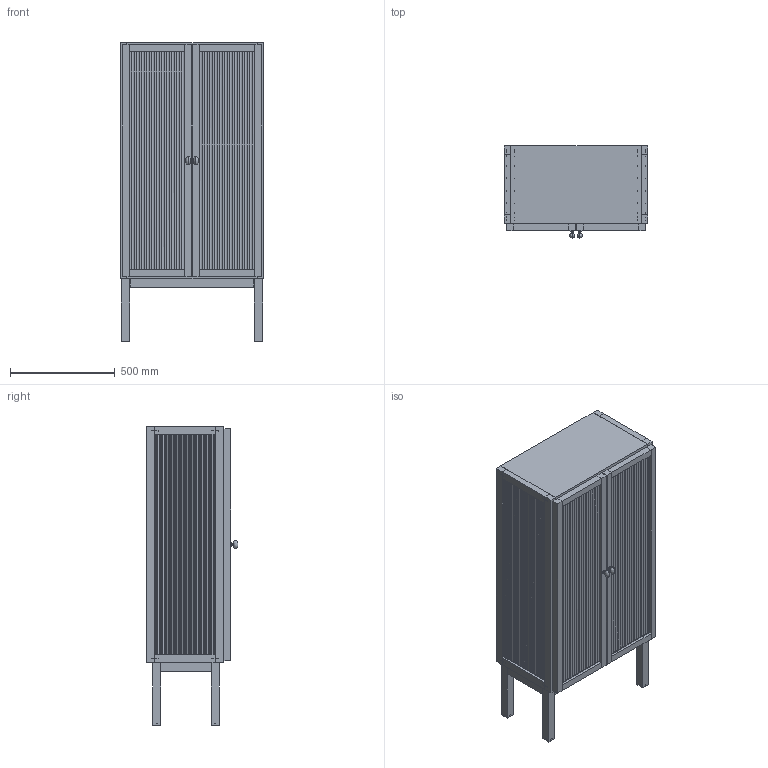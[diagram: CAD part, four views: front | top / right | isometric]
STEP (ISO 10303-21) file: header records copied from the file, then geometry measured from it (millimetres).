
FILE_DESCRIPTION(/* description */ (''),/* implementation_level */ '2;1');
FILE_NAME(/* name */ 'Curiosty Cabinet Low - reduce',/* time_stamp */ '2024-01-26T10:51:12+01:00',/* author */ (''),/* organization */ (''),/* preprocessor_version */ 'ST-DEVELOPER v16.5',/* originating_system */ 'Rhino 7.31',/* authorisation */ '');
FILE_SCHEMA (('AUTOMOTIVE_DESIGN'));
Products named in the file (5): Document; 2024_01_08_12_21_22_0936; 2024_01_08_12_21_22_0983; 2024_01_08_12_19_40_0463; 2024_01_08_12_19_40_0510
Assembly tree (6 placements, depth 3):
  Document
    2024_01_08_12_21_22_0936  x2
      2024_01_08_12_21_22_0983
    2024_01_08_12_19_40_0463  x2
      2024_01_08_12_19_40_0510
Bounding box: 685 x 439.65 x 1430 mm (x, y, z)
Volume: 48607573.9 mm3; surface area: 8836060.3 mm2
Topology: 46 solids, 46 shells, 3996 faces, 11043 edges, 6869 vertices
Faces by surface type: cylinder 1534, plane 1417, bspline 1045
Entity records: 101049 total; most frequent: CARTESIAN_POINT 52102, ORIENTED_EDGE 14538, EDGE_CURVE 7269, B_SPLINE_CURVE_WITH_KNOTS 5312, VERTEX_POINT 4708, EDGE_LOOP 3209, ADVANCED_FACE 2872, FACE_OUTER_BOUND 2872
